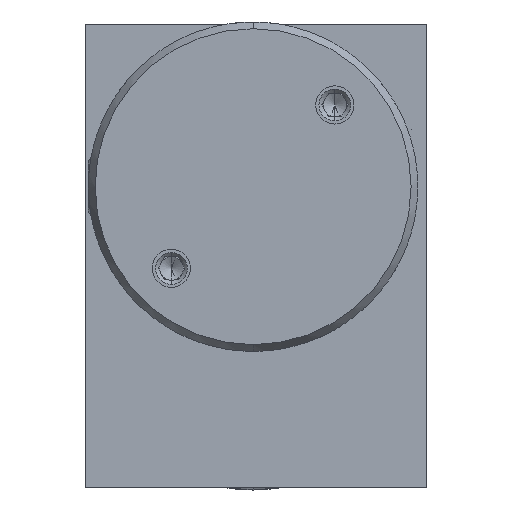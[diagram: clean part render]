
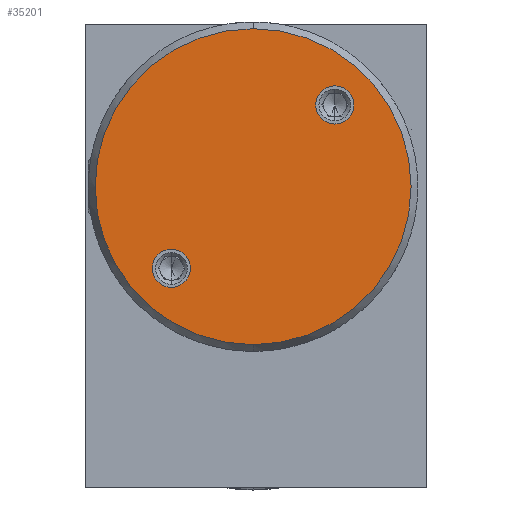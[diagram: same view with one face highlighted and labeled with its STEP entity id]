
A CAD part, left-side view. The second image highlights one B-rep face of the part: STEP entity #35201.
In plain terms, the highlighted planar face has unit normal (-1, 0, 0).
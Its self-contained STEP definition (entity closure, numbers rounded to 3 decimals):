
#1012 = ORIENTED_EDGE ( 'NONE', *, *, #25930, .T. ) ;
#1640 = FACE_OUTER_BOUND ( 'NONE', #56907, .T. ) ;
#2060 = ORIENTED_EDGE ( 'NONE', *, *, #17055, .F. ) ;
#2463 = DIRECTION ( 'NONE',  ( -1., 0., 0. ) ) ;
#3578 = CARTESIAN_POINT ( 'NONE',  ( -37., 7.321, -2.721 ) ) ;
#3686 = DIRECTION ( 'NONE',  ( -1., 0., 0. ) ) ;
#3768 = DIRECTION ( 'NONE',  ( -1., 0., 0. ) ) ;
#3842 = AXIS2_PLACEMENT_3D ( 'NONE', #49026, #18998, #54089 ) ;
#4420 = AXIS2_PLACEMENT_3D ( 'NONE', #32557, #2463, #37680 ) ;
#4574 = CARTESIAN_POINT ( 'NONE',  ( -37., -6.821, 11.421 ) ) ;
#5014 = CARTESIAN_POINT ( 'NONE',  ( -37., 0.25, -7.673 ) ) ;
#5605 = DIRECTION ( 'NONE',  ( -1., 0., 0. ) ) ;
#10254 = CARTESIAN_POINT ( 'NONE',  ( -37., -6.821, 14.721 ) ) ;
#11410 = ORIENTED_EDGE ( 'NONE', *, *, #30851, .T. ) ;
#12188 = AXIS2_PLACEMENT_3D ( 'NONE', #35633, #5605, #40756 ) ;
#15003 = CIRCLE ( 'NONE', #27503, 1.65 ) ;
#15065 = FACE_BOUND ( 'NONE', #41296, .T. ) ;
#15186 = ORIENTED_EDGE ( 'NONE', *, *, #51737, .F. ) ;
#17055 = EDGE_CURVE ( 'NONE', #64129, #43506, #61540, .T. ) ;
#18642 = CARTESIAN_POINT ( 'NONE',  ( -37., 7.321, 0.579 ) ) ;
#18998 = DIRECTION ( 'NONE',  ( -1., 0., 0. ) ) ;
#20394 = CIRCLE ( 'NONE', #12188, 13.673 ) ;
#23185 = EDGE_LOOP ( 'NONE', ( #15186, #54948 ) ) ;
#25930 = EDGE_CURVE ( 'NONE', #47158, #43501, #20394, .T. ) ;
#27503 = AXIS2_PLACEMENT_3D ( 'NONE', #33776, #3686, #38874 ) ;
#28234 = CARTESIAN_POINT ( 'NONE',  ( -37., 7.321, -1.071 ) ) ;
#28291 = CIRCLE ( 'NONE', #4420, 13.673 ) ;
#28462 = CARTESIAN_POINT ( 'NONE',  ( -37., -6.821, 13.071 ) ) ;
#29800 = ORIENTED_EDGE ( 'NONE', *, *, #36385, .F. ) ;
#30851 = EDGE_CURVE ( 'NONE', #43501, #47158, #28291, .T. ) ;
#30853 = AXIS2_PLACEMENT_3D ( 'NONE', #33849, #3768, #38955 ) ;
#32557 = CARTESIAN_POINT ( 'NONE',  ( -37., 0.25, 6. ) ) ;
#33244 = DIRECTION ( 'NONE',  ( 0., 0., 1. ) ) ;
#33498 = DIRECTION ( 'NONE',  ( 0., 0., 1. ) ) ;
#33674 = PLANE ( 'NONE',  #3842 ) ;
#33776 = CARTESIAN_POINT ( 'NONE',  ( -37., -6.821, 13.071 ) ) ;
#33849 = CARTESIAN_POINT ( 'NONE',  ( -37., 7.321, -1.071 ) ) ;
#35201 = ADVANCED_FACE ( 'NONE', ( #1640, #15065, #40215 ), #33674, .T. ) ;
#35633 = CARTESIAN_POINT ( 'NONE',  ( -37., 0.25, 6. ) ) ;
#36385 = EDGE_CURVE ( 'NONE', #43506, #64129, #45915, .T. ) ;
#37680 = DIRECTION ( 'NONE',  ( 0., 0., 1. ) ) ;
#38874 = DIRECTION ( 'NONE',  ( 0., 0., 1. ) ) ;
#38955 = DIRECTION ( 'NONE',  ( 0., 0., 1. ) ) ;
#40215 = FACE_BOUND ( 'NONE', #23185, .T. ) ;
#40756 = DIRECTION ( 'NONE',  ( 0., 0., 1. ) ) ;
#41296 = EDGE_LOOP ( 'NONE', ( #29800, #2060 ) ) ;
#43501 = VERTEX_POINT ( 'NONE', #48680 ) ;
#43506 = VERTEX_POINT ( 'NONE', #18642 ) ;
#45688 = EDGE_CURVE ( 'NONE', #53681, #62312, #45702, .T. ) ;
#45702 = CIRCLE ( 'NONE', #55098, 1.65 ) ;
#45915 = CIRCLE ( 'NONE', #30853, 1.65 ) ;
#47158 = VERTEX_POINT ( 'NONE', #5014 ) ;
#48680 = CARTESIAN_POINT ( 'NONE',  ( -37., 0.25, 19.673 ) ) ;
#49026 = CARTESIAN_POINT ( 'NONE',  ( -37., 0.25, 6. ) ) ;
#51737 = EDGE_CURVE ( 'NONE', #62312, #53681, #15003, .T. ) ;
#53681 = VERTEX_POINT ( 'NONE', #4574 ) ;
#54089 = DIRECTION ( 'NONE',  ( 0., 0., 1. ) ) ;
#54948 = ORIENTED_EDGE ( 'NONE', *, *, #45688, .F. ) ;
#55098 = AXIS2_PLACEMENT_3D ( 'NONE', #28462, #63531, #33498 ) ;
#56907 = EDGE_LOOP ( 'NONE', ( #1012, #11410 ) ) ;
#58910 = AXIS2_PLACEMENT_3D ( 'NONE', #28234, #63280, #33244 ) ;
#61540 = CIRCLE ( 'NONE', #58910, 1.65 ) ;
#62312 = VERTEX_POINT ( 'NONE', #10254 ) ;
#63280 = DIRECTION ( 'NONE',  ( -1., 0., 0. ) ) ;
#63531 = DIRECTION ( 'NONE',  ( -1., 0., 0. ) ) ;
#64129 = VERTEX_POINT ( 'NONE', #3578 ) ;
